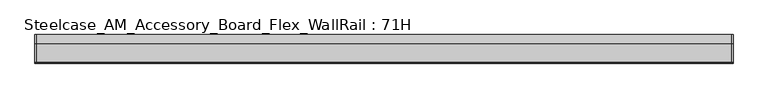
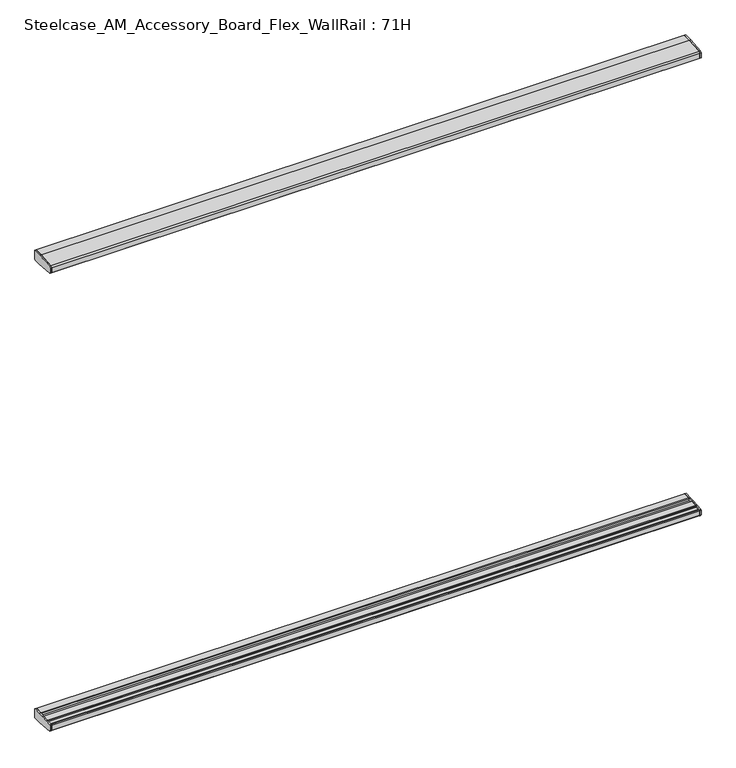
"""IFC4 building model written with IfcOpenShell, lengths in millimetres: furniture geometry, Steelcase_AM_Accessory_Board_Flex_WallRail : 71H."""

import ifcopenshell
import ifcopenshell.guid

model = None  # the IFC model being written
_history = None  # IfcOwnerHistory: only IFC2X3 demands one
_inside = {}  # id of a spatial element -> (the spatial element, [elements in it])
_under = {}  # id of a project, library or spatial element -> (it, [spatial elements below it])
_declared = {}  # id of a project -> (the project, [libraries it declares])
_typed = {}  # id of a type object -> (the type object, [elements of that type])
_made_of = {}  # id of a material, layer set ... -> (it, [elements and type objects made of it])


def new_model(schema):
    """Start an empty IFC model of exactly this schema.

    Asked for "IFC4X3", IfcOpenShell would pick the latest addendum, in which some entities
    have other attributes; the version numbers below select the first issue.
    IFC2X3 requires an IfcOwnerHistory on every rooted entity: one is made here for all.
    """
    global model, _history
    if schema == "IFC4X3":
        model = ifcopenshell.file(schema_version=(4, 3, 0, 0))
    else:
        model = ifcopenshell.file(schema=schema)
    _inside.clear()
    _under.clear()
    _declared.clear()
    _typed.clear()
    _made_of.clear()
    _history = None
    if model.schema == "IFC2X3":
        org = make("IfcOrganization", Name="unknown")
        user = make(
            "IfcPersonAndOrganization",
            ThePerson=make("IfcPerson", FamilyName="unknown"),
            TheOrganization=org,
        )
        app = make(
            "IfcApplication",
            ApplicationDeveloper=org,
            Version="unknown",
            ApplicationFullName="unknown",
            ApplicationIdentifier="unknown",
        )
        _history = make(
            "IfcOwnerHistory",
            OwningUser=user,
            OwningApplication=app,
            ChangeAction="ADDED",
            CreationDate=0,
        )
    return model


def make(cls, **values):
    """One entity of the class cls with the attributes given. An attribute that is None is left unset."""
    return model.create_entity(
        cls, **{name: value for name, value in values.items() if value is not None}
    )


def rooted(cls, **values):
    """An entity with a GlobalId (a new one), such as an element, a storey or a relation."""
    return make(cls, GlobalId=ifcopenshell.guid.new(), OwnerHistory=_history, **values)


def si_unit(unit_type, name, prefix=None):
    """IfcSIUnit, for example si_unit("LENGTHUNIT", "METRE", prefix="MILLI")."""
    return make("IfcSIUnit", UnitType=unit_type, Prefix=prefix, Name=name)


def assignment(units):
    """IfcUnitAssignment: the units of a project."""
    return None if units is None else make("IfcUnitAssignment", Units=units)


def point(xyz):
    """IfcCartesianPoint."""
    return None if xyz is None else make("IfcCartesianPoint", Coordinates=xyz)


def direction(xyz):
    """IfcDirection."""
    return None if xyz is None else make("IfcDirection", DirectionRatios=xyz)


def frame(location, z_axis=None, x_axis=None):
    """IfcAxis2Placement3D, a coordinate frame: its origin and axes. An axis left out is left unset."""
    return make(
        "IfcAxis2Placement3D",
        Location=point(location),
        Axis=direction(z_axis),
        RefDirection=direction(x_axis),
    )


def origin():
    """The frame at (0, 0, 0) with its axes left unset."""
    return frame((0.0, 0.0, 0.0))


def place(relative_to, where):
    """IfcLocalPlacement: puts the frame where relative to a parent placement (None: the world)."""
    return make(
        "IfcLocalPlacement", PlacementRelTo=relative_to, RelativePlacement=where
    )


def context(
    kind, dimensions, precision=None, world=None, true_north=None, identifier=None
):
    """IfcGeometricRepresentationContext, for example the 3D "Model" context."""
    return make(
        "IfcGeometricRepresentationContext",
        ContextIdentifier=identifier,
        ContextType=kind,
        CoordinateSpaceDimension=dimensions,
        Precision=precision,
        WorldCoordinateSystem=world,
        TrueNorth=true_north,
    )


def project(units=None, contexts=None):
    """IfcProject with its units and contexts."""
    return rooted(
        "IfcProject",
        Name="project",
        RepresentationContexts=contexts,
        UnitsInContext=assignment(units),
    )


def spatial(cls, under=None, at=None, **own):
    """A site, building, storey or space (cls), placed at a placement, below another one or the project."""
    s = rooted(cls, ObjectPlacement=at, **own)
    if under is not None:
        _under.setdefault(under.id(), (under, []))[1].append(s)
    return s


def polyline(points):
    """IfcPolyline through the points."""
    return make("IfcPolyline", Points=[point(p) for p in points])


def outline(outer, holes=None, kind="AREA"):
    """IfcArbitraryClosedProfileDef: a profile drawn as a closed curve; with holes, ...WithVoids."""
    if holes is None:
        return make("IfcArbitraryClosedProfileDef", ProfileType=kind, OuterCurve=outer)
    return make(
        "IfcArbitraryProfileDefWithVoids",
        ProfileType=kind,
        OuterCurve=outer,
        InnerCurves=holes,
    )


def extrude(swept, where, along, depth):
    """IfcExtrudedAreaSolid: the profile swept, set in the frame where, extruded along a direction by depth."""
    return make(
        "IfcExtrudedAreaSolid",
        SweptArea=swept,
        Position=where,
        ExtrudedDirection=direction(along),
        Depth=depth,
    )


def shape(context_of_items, identifier, shape_type, items):
    """IfcShapeRepresentation: the items that make up one representation, for example the "Body"."""
    return make(
        "IfcShapeRepresentation",
        ContextOfItems=context_of_items,
        RepresentationIdentifier=identifier,
        RepresentationType=shape_type,
        Items=items,
    )


def source(mapping_origin, context_of_items, identifier, shape_type, items):
    """IfcRepresentationMap: a shape defined once, which mapped items show again and again."""
    return make(
        "IfcRepresentationMap",
        MappingOrigin=mapping_origin,
        MappedRepresentation=shape(context_of_items, identifier, shape_type, items),
    )


def transform(
    local_origin,
    x_axis=None,
    y_axis=None,
    z_axis=None,
    scale=None,
    scale2=None,
    scale3=None,
    uniform=True,
):
    """IfcCartesianTransformationOperator3D, or its non-uniform kind. x_axis, y_axis, z_axis: its Axis1, 2, 3."""
    if uniform:
        return make(
            "IfcCartesianTransformationOperator3D",
            Axis1=direction(x_axis),
            Axis2=direction(y_axis),
            LocalOrigin=point(local_origin),
            Scale=scale,
            Axis3=direction(z_axis),
        )
    return make(
        "IfcCartesianTransformationOperator3DnonUniform",
        Axis1=direction(x_axis),
        Axis2=direction(y_axis),
        LocalOrigin=point(local_origin),
        Scale=scale,
        Axis3=direction(z_axis),
        Scale2=scale2,
        Scale3=scale3,
    )


def mapped(mapping_source, mapping_target):
    """IfcMappedItem: shows the shape of a source again, moved by a transform."""
    return make(
        "IfcMappedItem", MappingSource=mapping_source, MappingTarget=mapping_target
    )


def made_of(thing, what):
    """Note that an element or type object is made of a material, layer set ...; save() writes the relation."""
    if what is not None:
        _made_of.setdefault(what.id(), (what, []))[1].append(thing)
    return thing


def element(
    cls,
    number,
    at=None,
    inside=None,
    cuts=None,
    type_object=None,
    material=None,
    context=None,
    identifier="Body",
    shape_type=None,
    held_by="IfcProductDefinitionShape",
    body=None,
    shapes=None,
    **own,
):
    """One element of the class cls, such as IfcWall. Its Tag is "e" and its number.

    at: its placement. inside: the storey or other place that contains it. cuts: it is an
    opening in that element (IfcRelVoidsElement). A single representation is given by context,
    identifier, shape_type and body (its items); several are given by shapes. held_by: the class
    of the entity that holds the representations. save() writes the other relations.
    """
    e = rooted(cls, Tag="e%d" % number, ObjectPlacement=at, **own)
    if body is not None:
        shapes = [shape(context, identifier, shape_type, body)]
    if shapes is not None:
        e.Representation = make(held_by, Representations=shapes)
    if inside is not None:
        _inside.setdefault(inside.id(), (inside, []))[1].append(e)
    if cuts is not None:
        rooted(
            "IfcRelVoidsElement", RelatingBuildingElement=cuts, RelatedOpeningElement=e
        )
    if type_object is not None:
        _typed.setdefault(type_object.id(), (type_object, []))[1].append(e)
    return made_of(e, material)


def aggregate(whole, parts):
    """IfcRelAggregates: a whole, such as a stair, and the parts it consists of."""
    return rooted("IfcRelAggregates", RelatingObject=whole, RelatedObjects=parts)


def save(model, path):
    """Write the relations noted so far, then the file.

    IfcRelAggregates (storeys below a building ...), IfcRelContainedInSpatialStructure (elements
    in a storey), IfcRelDefinesByType, IfcRelAssociatesMaterial and IfcRelDeclares: one each for
    every whole, place, type object, material and project.
    """
    for whole, parts in _under.values():
        aggregate(whole, parts)
    for where, things in _inside.values():
        rooted(
            "IfcRelContainedInSpatialStructure",
            RelatedElements=things,
            RelatingStructure=where,
        )
    for kind, things in _typed.values():
        rooted("IfcRelDefinesByType", RelatedObjects=things, RelatingType=kind)
    for what, things in _made_of.values():
        rooted("IfcRelAssociatesMaterial", RelatedObjects=things, RelatingMaterial=what)
    for by, libraries in _declared.values():
        rooted("IfcRelDeclares", RelatingContext=by, RelatedDefinitions=libraries)
    model.write(path)


def steelcase_am_accessory_board_flex_wallrail_71h_4a79e921(model_context):
    return source(origin(), model_context, "Body", "SweptSolid", [
        extrude(outline(polyline([(-29.748384, 311.8124036), (-2.0015978, 311.8124036), (0.0, 309.8107755), (0.0, 274.6124455), (-31.7483991, 274.6124455), (-95.5653908, 280.1038739), (-99.9999601, 284.9364269), (-99.9999601, 304.160545), (-98.0172056, 306.3145802), (-73.1435844, 308.3782149), (-50.3978144, 310.4594831), (-29.748384, 311.8124036)])), frame((2443.3857422, 0.0, 0.0), z_axis=(1.0, 0.0, 0.0), x_axis=(0.0, 1.0, 0.0)), (0.0, 0.0, 1.0), 4.9857422),
        extrude(outline(polyline([(-29.748384, 2096.400042), (-50.3978144, 2097.7529625), (-73.1435844, 2099.8342307), (-98.0172056, 2101.8978653), (-99.9999601, 2104.0519005), (-99.9999601, 2123.2760186), (-95.5653908, 2128.1085716), (-31.7483991, 2133.6), (0.0, 2133.6), (0.0, 2098.40167), (-2.0015978, 2096.400042), (-29.748384, 2096.400042)])), frame((2443.3857422, 0.0, 0.0), z_axis=(1.0, 0.0, 0.0), x_axis=(0.0, 1.0, 0.0)), (0.0, 0.0, 1.0), 4.9857422),
        extrude(outline(polyline([(-29.748384, 311.8124036), (-2.0015978, 311.8124036), (0.0, 309.8107755), (0.0, 274.6124455), (-31.7483991, 274.6124455), (-95.5653908, 280.1038739), (-99.9999601, 284.9364269), (-99.9999601, 304.160545), (-98.0172056, 306.3145802), (-73.1435844, 308.3782149), (-50.3978144, 310.4594831), (-29.748384, 311.8124036)])), frame((0.0, 0.0, 0.0), z_axis=(1.0, 0.0, 0.0), x_axis=(0.0, 1.0, 0.0)), (0.0, 0.0, 1.0), 4.9857422),
        extrude(outline(polyline([(-29.748384, 2096.400042), (-50.3978144, 2097.7529625), (-73.1435844, 2099.8342307), (-98.0172056, 2101.8978653), (-99.9999601, 2104.0519005), (-99.9999601, 2123.2760186), (-95.5653908, 2128.1085716), (-31.7483991, 2133.6), (0.0, 2133.6), (0.0, 2098.40167), (-2.0015978, 2096.400042), (-29.748384, 2096.400042)])), frame((0.0, 0.0, 0.0), z_axis=(1.0, 0.0, 0.0), x_axis=(0.0, 1.0, 0.0)), (0.0, 0.0, 1.0), 4.9857422),
        extrude(outline(polyline([(0.0, 309.8107755), (0.0, 274.6124455), (-31.7483991, 274.6124455), (-95.5653908, 280.1038739), (-99.9999606, 284.9364278), (-99.9999598, 304.160545), (-98.0172056, 306.3145802), (-93.9826847, 306.6493034), (-91.9999743, 304.8242642), (-91.9999735, 302.4062228), (-75.1383227, 302.4062228), (-75.1383233, 306.2110981), (-73.1435844, 308.3782149), (-50.3978144, 310.4594831), (-48.4030258, 308.4293275), (-48.4030258, 302.4062228), (-31.7499758, 302.4062228), (-31.7499758, 309.8107815), (-29.748384, 311.8124036), (-2.0015978, 311.8124036), (0.0, 309.8107755)])), frame((4.9857422, 0.0, 0.0), z_axis=(1.0, 0.0, 0.0), x_axis=(0.0, 1.0, 0.0)), (0.0, 0.0, 1.0), 2438.4),
        extrude(outline(polyline([(0.0, 2098.40167), (-2.0015978, 2096.400042), (-29.748384, 2096.400042), (-31.7499758, 2098.401664), (-31.7499758, 2105.8062228), (-48.4030258, 2105.8062228), (-48.4030258, 2099.783118), (-50.3978144, 2097.7529625), (-73.1435844, 2099.8342307), (-75.1383233, 2102.0013474), (-75.1383227, 2105.8062228), (-91.9999735, 2105.8062228), (-91.9999743, 2103.3881813), (-93.9826847, 2101.5631421), (-98.0172056, 2101.8978653), (-99.9999601, 2104.0519008), (-99.9999601, 2123.2760183), (-95.5653908, 2128.1085716), (-31.7483991, 2133.6), (0.0, 2133.6), (0.0, 2098.40167)])), frame((4.9857422, 0.0, 0.0), z_axis=(1.0, 0.0, 0.0), x_axis=(0.0, 1.0, 0.0)), (0.0, 0.0, 1.0), 2438.4),
    ])


if __name__ == "__main__":
    model = new_model("IFC4")
    model_context = context("Model", 3, world=origin())
    ifc_project = project(units=[si_unit("LENGTHUNIT", "METRE", prefix="MILLI")], contexts=[model_context])
    site = spatial("IfcSite", under=ifc_project)
    building = spatial("IfcBuilding", under=site)
    placement = place(None, origin())
    steelcase_am_accessory_board_flex_wallrail_71h_shape = steelcase_am_accessory_board_flex_wallrail_71h_4a79e921(model_context)
    element("IfcFurniture", 1, ObjectType="Steelcase_AM_Accessory_Board_Flex_WallRail : 71H", at=placement, inside=building, context=model_context, shape_type="MappedRepresentation", body=[
        mapped(steelcase_am_accessory_board_flex_wallrail_71h_shape, transform((0.0, 0.0, 0.0), x_axis=(1.0, 0.0, 0.0), y_axis=(0.0, 1.0, 0.0), z_axis=(0.0, 0.0, 1.0))),
    ])
    save(model, "model.ifc")
